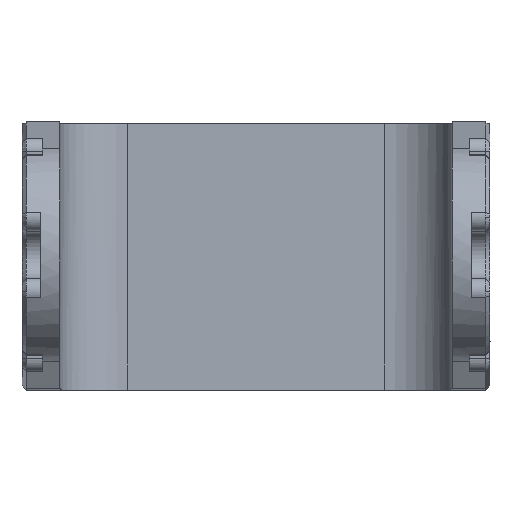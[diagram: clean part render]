
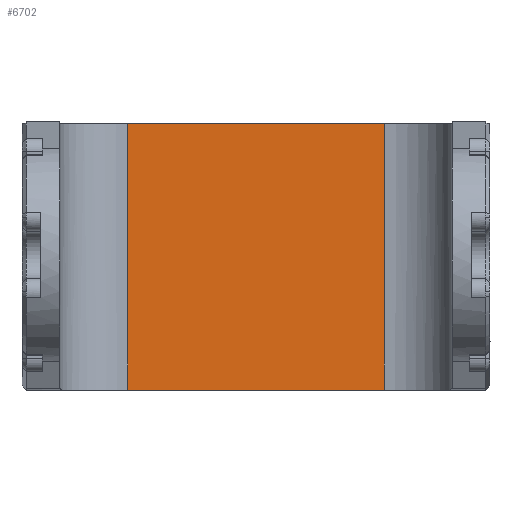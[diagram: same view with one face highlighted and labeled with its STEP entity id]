
A CAD part, front view. The second image highlights one B-rep face of the part: STEP entity #6702.
In plain terms, the highlighted planar face has unit normal (0, -1, 0).
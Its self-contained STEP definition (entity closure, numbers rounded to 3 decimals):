
#10 = EDGE_CURVE ( 'NONE', #10823, #3424, #10750, .T. ) ;
#398 = EDGE_CURVE ( 'NONE', #10823, #2950, #8229, .T. ) ;
#899 = LINE ( 'NONE', #3735, #4921 ) ;
#1808 = CARTESIAN_POINT ( 'NONE',  ( 10.777, -5.087, 6.056 ) ) ;
#1975 = VECTOR ( 'NONE', #2589, 1000. ) ;
#2079 = EDGE_LOOP ( 'NONE', ( #5261, #9346, #8759, #8239 ) ) ;
#2589 = DIRECTION ( 'NONE',  ( -1., 0., 0. ) ) ;
#2950 = VERTEX_POINT ( 'NONE', #11321 ) ;
#3424 = VERTEX_POINT ( 'NONE', #1808 ) ;
#3735 = CARTESIAN_POINT ( 'NONE',  ( 1.277, -5.087, 6.056 ) ) ;
#3924 = EDGE_CURVE ( 'NONE', #10503, #2950, #8280, .T. ) ;
#4547 = CARTESIAN_POINT ( 'NONE',  ( 10.777, -5.087, -13.646 ) ) ;
#4625 = CARTESIAN_POINT ( 'NONE',  ( -8.223, -5.087, 6.056 ) ) ;
#4735 = DIRECTION ( 'NONE',  ( 0., 0., 1. ) ) ;
#4921 = VECTOR ( 'NONE', #10912, 1000. ) ;
#5261 = ORIENTED_EDGE ( 'NONE', *, *, #12468, .F. ) ;
#6101 = AXIS2_PLACEMENT_3D ( 'NONE', #12407, #7652, #11584 ) ;
#6253 = VECTOR ( 'NONE', #10037, 1000. ) ;
#6702 = ADVANCED_FACE ( 'NONE', ( #8631 ), #12598, .F. ) ;
#7652 = DIRECTION ( 'NONE',  ( 0., 1., 0. ) ) ;
#8229 = LINE ( 'NONE', #11437, #1975 ) ;
#8239 = ORIENTED_EDGE ( 'NONE', *, *, #10, .T. ) ;
#8280 = LINE ( 'NONE', #11250, #6253 ) ;
#8514 = VECTOR ( 'NONE', #4735, 1000. ) ;
#8631 = FACE_OUTER_BOUND ( 'NONE', #2079, .T. ) ;
#8759 = ORIENTED_EDGE ( 'NONE', *, *, #398, .F. ) ;
#9346 = ORIENTED_EDGE ( 'NONE', *, *, #3924, .T. ) ;
#9588 = CARTESIAN_POINT ( 'NONE',  ( 10.777, -5.087, 6.056 ) ) ;
#10037 = DIRECTION ( 'NONE',  ( 0., 0., -1. ) ) ;
#10503 = VERTEX_POINT ( 'NONE', #4625 ) ;
#10750 = LINE ( 'NONE', #9588, #8514 ) ;
#10823 = VERTEX_POINT ( 'NONE', #4547 ) ;
#10912 = DIRECTION ( 'NONE',  ( 1., 0., 0. ) ) ;
#11250 = CARTESIAN_POINT ( 'NONE',  ( -8.223, -5.087, -3.646 ) ) ;
#11321 = CARTESIAN_POINT ( 'NONE',  ( -8.223, -5.087, -13.646 ) ) ;
#11437 = CARTESIAN_POINT ( 'NONE',  ( 1.277, -5.087, -13.646 ) ) ;
#11584 = DIRECTION ( 'NONE',  ( 0., 0., -1. ) ) ;
#12407 = CARTESIAN_POINT ( 'NONE',  ( 1.277, -5.087, -3.646 ) ) ;
#12468 = EDGE_CURVE ( 'NONE', #10503, #3424, #899, .T. ) ;
#12598 = PLANE ( 'NONE',  #6101 ) ;
